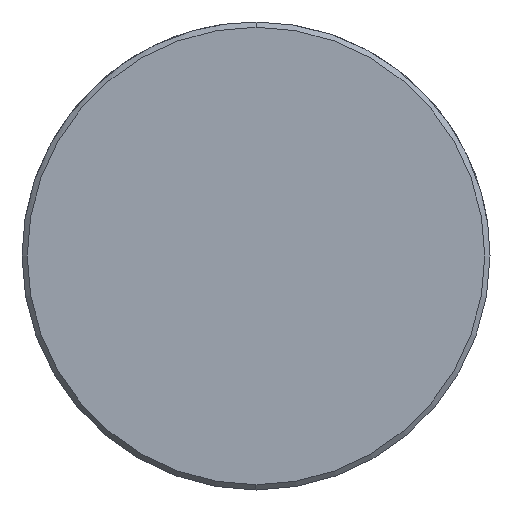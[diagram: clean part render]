
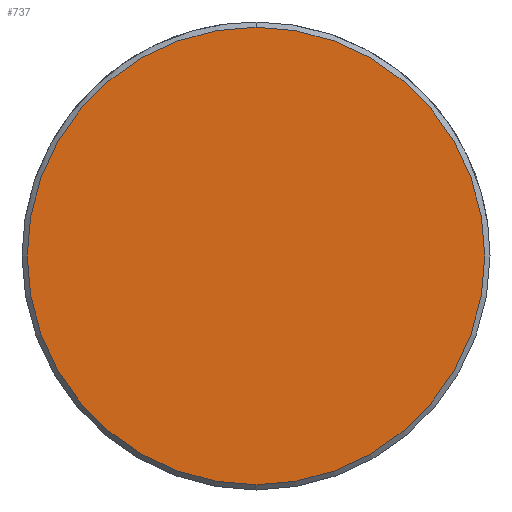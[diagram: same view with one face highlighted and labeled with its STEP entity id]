
A CAD part, left-side view. The second image highlights one B-rep face of the part: STEP entity #737.
In plain terms, the highlighted planar face has unit normal (-1, 0, 0).
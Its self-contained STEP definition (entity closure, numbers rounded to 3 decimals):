
#669=CARTESIAN_POINT('Vertex',(0.,0.,-13.2)) ;
#672=CARTESIAN_POINT('Axis2P3D Location',(0.,0.,0.)) ;
#676=CARTESIAN_POINT('Vertex',(0.,13.2,0.)) ;
#679=CARTESIAN_POINT('Axis2P3D Location',(0.,0.,0.)) ;
#683=CARTESIAN_POINT('Vertex',(0.,0.,13.2)) ;
#705=CARTESIAN_POINT('Axis2P3D Location',(0.,0.,0.)) ;
#709=CARTESIAN_POINT('Vertex',(0.,-13.2,0.)) ;
#712=CARTESIAN_POINT('Axis2P3D Location',(0.,0.,0.)) ;
#726=CARTESIAN_POINT('Axis2P3D Location',(0.,0.,0.)) ;
#673=DIRECTION('Axis2P3D Direction',(1.,0.,-0.)) ;
#680=DIRECTION('Axis2P3D Direction',(1.,0.,-0.)) ;
#706=DIRECTION('Axis2P3D Direction',(1.,0.,-0.)) ;
#713=DIRECTION('Axis2P3D Direction',(1.,0.,-0.)) ;
#727=DIRECTION('Axis2P3D Direction',(1.,0.,-0.)) ;
#728=DIRECTION('Axis2P3D XDirection',(-0.,0.,-1.)) ;
#674=AXIS2_PLACEMENT_3D('Circle Axis2P3D',#672,#673,$) ;
#681=AXIS2_PLACEMENT_3D('Circle Axis2P3D',#679,#680,$) ;
#707=AXIS2_PLACEMENT_3D('Circle Axis2P3D',#705,#706,$) ;
#714=AXIS2_PLACEMENT_3D('Circle Axis2P3D',#712,#713,$) ;
#729=AXIS2_PLACEMENT_3D('Plane Axis2P3D',#726,#727,#728) ;
#732=ORIENTED_EDGE('',*,*,#678,.F.) ;
#733=ORIENTED_EDGE('',*,*,#716,.F.) ;
#734=ORIENTED_EDGE('',*,*,#711,.F.) ;
#735=ORIENTED_EDGE('',*,*,#685,.F.) ;
#737=ADVANCED_FACE('549-24X200',(#736),#730,.F.) ;
#675=CIRCLE('generated circle',#674,13.2) ;
#682=CIRCLE('generated circle',#681,13.2) ;
#708=CIRCLE('generated circle',#707,13.2) ;
#715=CIRCLE('generated circle',#714,13.2) ;
#678=EDGE_CURVE('',#670,#677,#675,.T.) ;
#685=EDGE_CURVE('',#677,#684,#682,.T.) ;
#711=EDGE_CURVE('',#684,#710,#708,.T.) ;
#716=EDGE_CURVE('',#710,#670,#715,.T.) ;
#731=EDGE_LOOP('',(#732,#733,#734,#735)) ;
#736=FACE_OUTER_BOUND('',#731,.T.) ;
#730=PLANE('Plane',#729) ;
#670=VERTEX_POINT('',#669) ;
#677=VERTEX_POINT('',#676) ;
#684=VERTEX_POINT('',#683) ;
#710=VERTEX_POINT('',#709) ;
